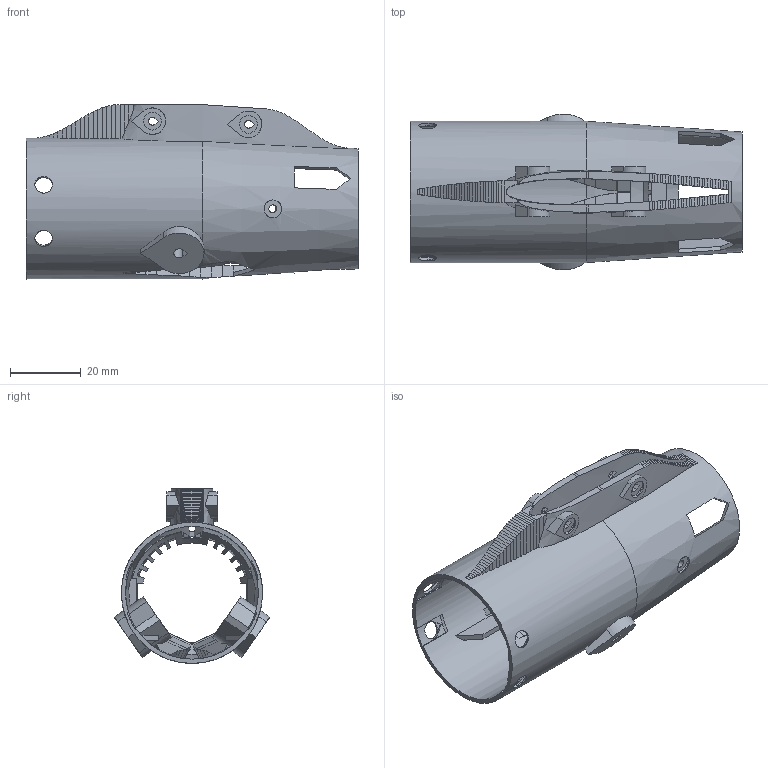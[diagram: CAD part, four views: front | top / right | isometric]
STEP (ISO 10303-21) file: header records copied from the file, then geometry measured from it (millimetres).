
FILE_DESCRIPTION(('SkyG Speed 90B - revision C6B-24 - 2026-10-17','F3-tail-module'),'2;1');
FILE_NAME('F3-tail-module_C6B-24','2026-10-17T13:26:39',('Author'),( 'Open CASCADE'),'Open CASCADE STEP processor 7.9','Open CASCADE 7.9' ,'Unknown');
FILE_SCHEMA(('AUTOMOTIVE_DESIGN { 1 0 10303 214 1 1 1 1 }'));
Products named in the file (1): F3-tail-module C6B-24
Bounding box: 94 x 44.07 x 49.5 mm (x, y, z)
Volume: 19928.6 mm3; surface area: 26719.4 mm2
Topology: 1 solids, 1 shells, 608 faces, 1828 edges, 1222 vertices
Faces by surface type: plane 459, cylinder 98, bspline 39, cone 12
Full cylindrical faces by diameter (mm): 2.2 x2, 37.6 x1, 40 x1
Entity records: 63073 total; most frequent: CARTESIAN_POINT 30864, DIRECTION 4717, ORIENTED_EDGE 3656, PCURVE 3656, DEFINITIONAL_REPRESENTATION 3656, LINE 2412, VECTOR 2412, B_SPLINE_CURVE_WITH_KNOTS 2268
